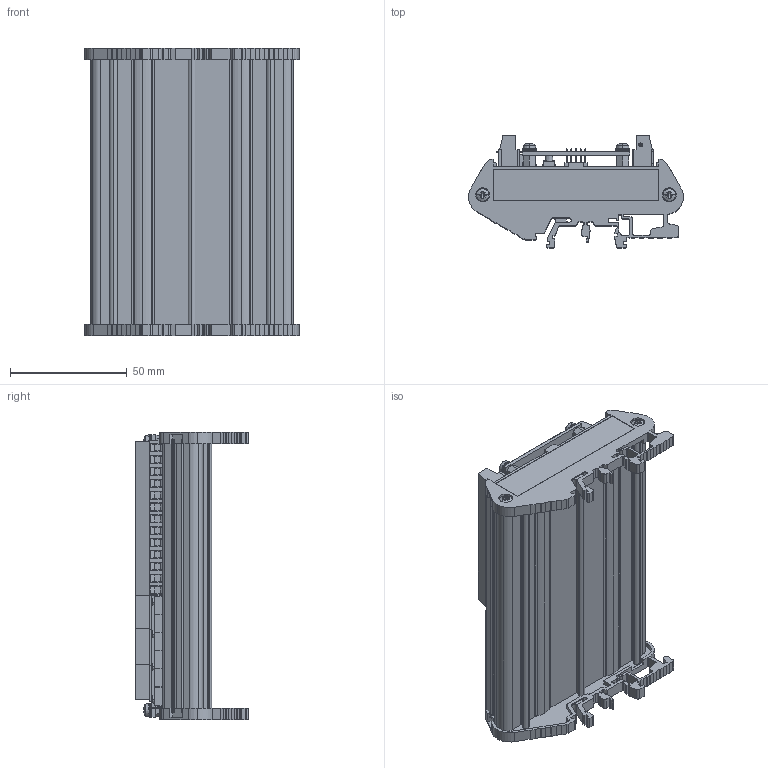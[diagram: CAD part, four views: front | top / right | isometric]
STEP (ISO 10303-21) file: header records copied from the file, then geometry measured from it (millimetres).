
FILE_DESCRIPTION((''),'1');
FILE_NAME('ETLF_transmitter.step','2022-05-06T07:55:32',(''),(''),'','','');
FILE_SCHEMA(('AUTOMOTIVE_DESIGN { 1 0 10303 214 1 1 1 1 }'));
Products named in the file (38): ETLF transmitter; ETLF screw 01; ETLF screw 03; ETLF part 02; ETLF part 03; ETLF part 05; ETLF spacer 01; ETLF connector 01; ETLF part 06; ETLF part 07; ETLF part 08; ETLF circuit board 01; ETLF part 09; ETLF screw 04; ETLF part 10; ETLF part 11; ETLF base 01; ETLF display 01; ETLF body 01; ETLF display 02; ETLF display 03; ETLF display 04; ETLF part 12; ETLF part 14; ETLF part 15; ETLF display 05; ETLF part 16; ETLF button 01
Assembly tree (81 placements, depth 4):
  ETLF transmitter
    ETLF screw 01  x3
    ETLF screw 03  x3
    ETLF part 02
      ETLF part 03
      ETLF part 05
    ETLF spacer 01  x3
    ETLF connector 01
    ETLF part 06  x2
    ETLF part 07
    ETLF part 08  x7
    ETLF circuit board 01
    ETLF part 09
      ETLF screw 04  x4
      ETLF part 10
      ETLF part 11
      ETLF base 01
    ETLF display 03
      ETLF display 01
        ETLF body 01
        ETLF display 02
      ETLF display 01
        ETLF body 01
        ETLF display 02
      ETLF display 01
        ETLF body 01
        ETLF display 02
      ETLF display 01
        ETLF body 01
        ETLF display 02
      ETLF display 01
        ETLF body 01
        ETLF display 02
      ETLF display 01
        ETLF body 01
        ETLF display 02
    ETLF display 05
      ETLF display 04
        ETLF part 12
        ETLF part 14
        ETLF part 15
      ETLF display 04
        ETLF part 12
        ETLF part 14
        ETLF part 15
      ETLF display 04
        ETLF part 12
        ETLF part 14
        ETLF part 15
      ETLF display 04
        ETLF part 12
        ETLF part 14
        ETLF part 15
      ETLF display 04
        ETLF part 12
        ETLF part 14
        ETLF part 15
      ETLF display 04
        ETLF part 12
        ETLF part 14
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Bounding box: 91.96 x 48.1 x 123.32 mm (x, y, z)
Volume: 86715.7 mm3; surface area: 116445.8 mm2
Topology: 107 solids, 107 shells, 6818 faces, 18001 edges, 11787 vertices
Faces by surface type: plane 3648, cylinder 2760, cone 202, torus 150, sphere 58
Entity records: 130870 total; most frequent: CARTESIAN_POINT 44007, ORIENTED_EDGE 16618, DIRECTION 15123, EDGE_CURVE 8309, VERTEX_POINT 5438, AXIS2_PLACEMENT_3D 5124, LINE 4875, VECTOR 4875
